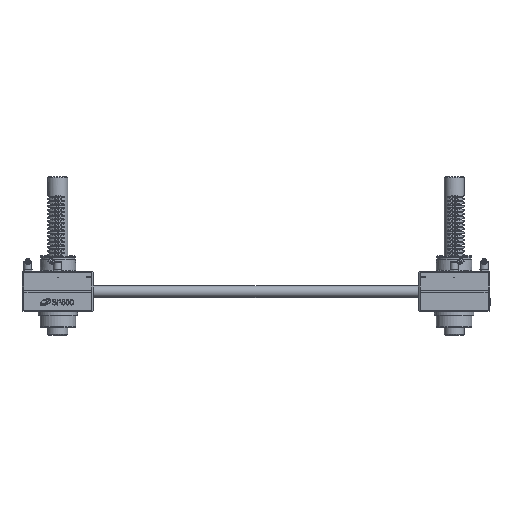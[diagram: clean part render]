
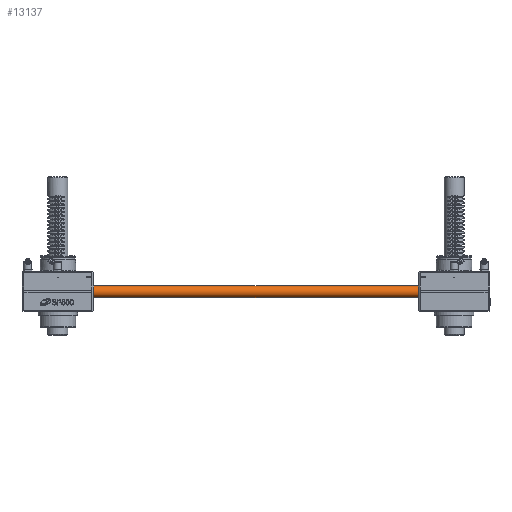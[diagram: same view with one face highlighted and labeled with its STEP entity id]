
A CAD part, left-side view. The second image highlights one B-rep face of the part: STEP entity #13137.
In plain terms, the highlighted cylindrical face has radius 7.5 mm (diameter 15 mm), a full revolution.
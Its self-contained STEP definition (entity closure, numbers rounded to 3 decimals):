
#13137=ADVANCED_FACE('',(#31085,#31086),#31087,.T.);
#31085=FACE_OUTER_BOUND('',#50328,.T.);
#31086=FACE_OUTER_BOUND('',#50329,.T.);
#31087=CYLINDRICAL_SURFACE('',#50330,7.5);
#50328=EDGE_LOOP('',(#122454));
#50329=EDGE_LOOP('',(#122455));
#50330=AXIS2_PLACEMENT_3D('',#122456,#122457,#122458);
#122454=ORIENTED_EDGE('',*,*,#145689,.T.);
#122455=ORIENTED_EDGE('',*,*,#145686,.T.);
#122456=CARTESIAN_POINT('',(0.0,0.0,532.0));
#122457=DIRECTION('',(0.0,0.0,-1.0));
#122458=DIRECTION('',(-1.0,0.0,0.0));
#145686=EDGE_CURVE('',#184410,#184410,#184411,.F.);
#145689=EDGE_CURVE('',#184416,#184416,#184417,.T.);
#184410=VERTEX_POINT('',#249582);
#184411=CIRCLE('',#249583,7.5);
#184416=VERTEX_POINT('',#249588);
#184417=CIRCLE('',#249589,7.5);
#249582=CARTESIAN_POINT('',(7.5,0.0,531.5));
#249583=AXIS2_PLACEMENT_3D('',#275710,#275711,#275712);
#249588=CARTESIAN_POINT('',(7.5,0.0,0.5));
#249589=AXIS2_PLACEMENT_3D('',#275719,#275720,#275721);
#275710=CARTESIAN_POINT('',(0.0,0.0,531.5));
#275711=DIRECTION('',(0.0,0.0,1.0));
#275712=DIRECTION('',(1.0,0.0,0.0));
#275719=CARTESIAN_POINT('',(0.0,0.0,0.5));
#275720=DIRECTION('',(0.0,0.0,1.0));
#275721=DIRECTION('',(1.0,0.0,0.0));
